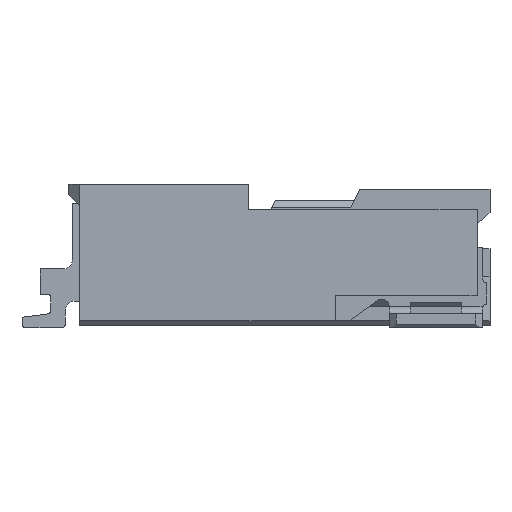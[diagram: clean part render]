
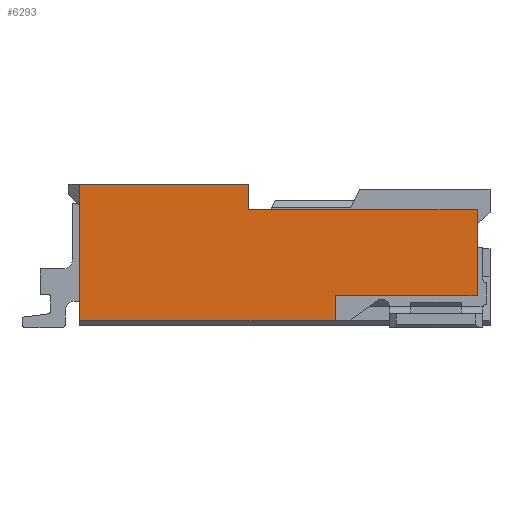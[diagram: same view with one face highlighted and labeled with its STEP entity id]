
A CAD part, front view. The second image highlights one B-rep face of the part: STEP entity #6293.
In plain terms, the highlighted planar face has unit normal (0, -1, 0).
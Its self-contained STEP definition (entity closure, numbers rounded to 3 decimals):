
#27 = LINE ( 'NONE', #4485, #11971 ) ;
#69 = CARTESIAN_POINT ( 'NONE',  ( 2.85, -2.35, 0.07 ) ) ;
#1417 = EDGE_CURVE ( 'NONE', #13199, #14799, #19489, .T. ) ;
#1607 = LINE ( 'NONE', #16460, #11098 ) ;
#2235 = EDGE_CURVE ( 'NONE', #11025, #10401, #4231, .T. ) ;
#2417 = ORIENTED_EDGE ( 'NONE', *, *, #12561, .T. ) ;
#2768 = LINE ( 'NONE', #19318, #3773 ) ;
#2813 = ORIENTED_EDGE ( 'NONE', *, *, #19049, .T. ) ;
#2890 = VECTOR ( 'NONE', #4440, 1000. ) ;
#3117 = DIRECTION ( 'NONE',  ( -1., 0., 0. ) ) ;
#3773 = VECTOR ( 'NONE', #8801, 1000. ) ;
#4231 = LINE ( 'NONE', #14748, #2890 ) ;
#4348 = EDGE_CURVE ( 'NONE', #15538, #19354, #27, .T. ) ;
#4417 = EDGE_CURVE ( 'NONE', #13199, #11415, #12420, .T. ) ;
#4440 = DIRECTION ( 'NONE',  ( 0., 0., 1. ) ) ;
#4485 = CARTESIAN_POINT ( 'NONE',  ( 1.65, -2.35, 1.97 ) ) ;
#4830 = ORIENTED_EDGE ( 'NONE', *, *, #4348, .T. ) ;
#5252 = EDGE_CURVE ( 'NONE', #16878, #15538, #17941, .T. ) ;
#6178 = FACE_OUTER_BOUND ( 'NONE', #15351, .T. ) ;
#6293 = ADVANCED_FACE ( 'NONE', ( #6178 ), #16686, .T. ) ;
#6381 = LINE ( 'NONE', #17293, #8107 ) ;
#6386 = VECTOR ( 'NONE', #10535, 1000. ) ;
#7348 = CARTESIAN_POINT ( 'NONE',  ( 4.82, -2.35, 0.42 ) ) ;
#7553 = CARTESIAN_POINT ( 'NONE',  ( 1.65, -2.35, 1.62 ) ) ;
#7759 = DIRECTION ( 'NONE',  ( 0., -1., 0. ) ) ;
#8107 = VECTOR ( 'NONE', #17190, 1000. ) ;
#8611 = VECTOR ( 'NONE', #16636, 1000. ) ;
#8801 = DIRECTION ( 'NONE',  ( 0., 0., 1. ) ) ;
#8810 = CARTESIAN_POINT ( 'NONE',  ( 1.65, -2.35, 1.62 ) ) ;
#9443 = VECTOR ( 'NONE', #10114, 1000. ) ;
#10114 = DIRECTION ( 'NONE',  ( -1., 0., 0. ) ) ;
#10203 = CARTESIAN_POINT ( 'NONE',  ( 4.82, -2.35, 1.62 ) ) ;
#10401 = VERTEX_POINT ( 'NONE', #12560 ) ;
#10515 = DIRECTION ( 'NONE',  ( 1., 0., 0. ) ) ;
#10535 = DIRECTION ( 'NONE',  ( 1., 0., 0. ) ) ;
#10936 = CARTESIAN_POINT ( 'NONE',  ( 5., -2.35, 0. ) ) ;
#11025 = VERTEX_POINT ( 'NONE', #7348 ) ;
#11098 = VECTOR ( 'NONE', #10515, 1000. ) ;
#11415 = VERTEX_POINT ( 'NONE', #69 ) ;
#11935 = ORIENTED_EDGE ( 'NONE', *, *, #4417, .T. ) ;
#11971 = VECTOR ( 'NONE', #16866, 1000. ) ;
#12329 = CARTESIAN_POINT ( 'NONE',  ( -0.65, -2.35, 0.07 ) ) ;
#12420 = LINE ( 'NONE', #12329, #6386 ) ;
#12560 = CARTESIAN_POINT ( 'NONE',  ( 4.82, -2.35, 1.62 ) ) ;
#12561 = EDGE_CURVE ( 'NONE', #10401, #16878, #19234, .T. ) ;
#12747 = ORIENTED_EDGE ( 'NONE', *, *, #1417, .F. ) ;
#13095 = VECTOR ( 'NONE', #14812, 1000. ) ;
#13199 = VERTEX_POINT ( 'NONE', #18248 ) ;
#13329 = CARTESIAN_POINT ( 'NONE',  ( -0.7, -2.35, 0.07 ) ) ;
#13482 = EDGE_CURVE ( 'NONE', #11415, #16850, #2768, .T. ) ;
#13520 = CARTESIAN_POINT ( 'NONE',  ( 1.65, -2.35, 1.97 ) ) ;
#13708 = ORIENTED_EDGE ( 'NONE', *, *, #2235, .T. ) ;
#13951 = CARTESIAN_POINT ( 'NONE',  ( -0.7, -2.35, 1.67 ) ) ;
#14748 = CARTESIAN_POINT ( 'NONE',  ( 4.82, -2.35, 0.42 ) ) ;
#14799 = VERTEX_POINT ( 'NONE', #13951 ) ;
#14812 = DIRECTION ( 'NONE',  ( 0., 0., 1. ) ) ;
#15351 = EDGE_LOOP ( 'NONE', ( #4830, #2813, #12747, #11935, #17101, #17206, #13708, #2417, #17435 ) ) ;
#15538 = VERTEX_POINT ( 'NONE', #13520 ) ;
#15796 = CARTESIAN_POINT ( 'NONE',  ( 2.85, -2.35, 0.42 ) ) ;
#15905 = EDGE_CURVE ( 'NONE', #16850, #11025, #1607, .T. ) ;
#15950 = AXIS2_PLACEMENT_3D ( 'NONE', #10936, #7759, #3117 ) ;
#16460 = CARTESIAN_POINT ( 'NONE',  ( 2.85, -2.35, 0.42 ) ) ;
#16636 = DIRECTION ( 'NONE',  ( 0., 0., 1. ) ) ;
#16686 = PLANE ( 'NONE',  #15950 ) ;
#16850 = VERTEX_POINT ( 'NONE', #15796 ) ;
#16866 = DIRECTION ( 'NONE',  ( -1., 0., 0. ) ) ;
#16878 = VERTEX_POINT ( 'NONE', #7553 ) ;
#17101 = ORIENTED_EDGE ( 'NONE', *, *, #13482, .T. ) ;
#17190 = DIRECTION ( 'NONE',  ( 0., 0., -1. ) ) ;
#17206 = ORIENTED_EDGE ( 'NONE', *, *, #15905, .T. ) ;
#17293 = CARTESIAN_POINT ( 'NONE',  ( -0.7, -2.35, 1.67 ) ) ;
#17435 = ORIENTED_EDGE ( 'NONE', *, *, #5252, .T. ) ;
#17941 = LINE ( 'NONE', #8810, #8611 ) ;
#18248 = CARTESIAN_POINT ( 'NONE',  ( -0.7, -2.35, 0.07 ) ) ;
#19049 = EDGE_CURVE ( 'NONE', #19354, #14799, #6381, .T. ) ;
#19234 = LINE ( 'NONE', #10203, #9443 ) ;
#19318 = CARTESIAN_POINT ( 'NONE',  ( 2.85, -2.35, 0.07 ) ) ;
#19354 = VERTEX_POINT ( 'NONE', #19368 ) ;
#19368 = CARTESIAN_POINT ( 'NONE',  ( -0.7, -2.35, 1.97 ) ) ;
#19489 = LINE ( 'NONE', #13329, #13095 ) ;
